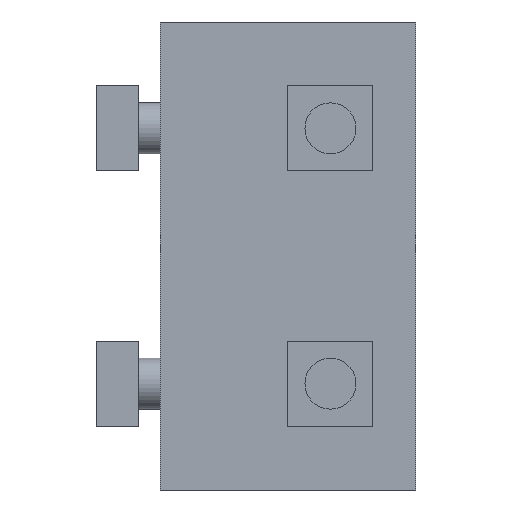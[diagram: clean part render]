
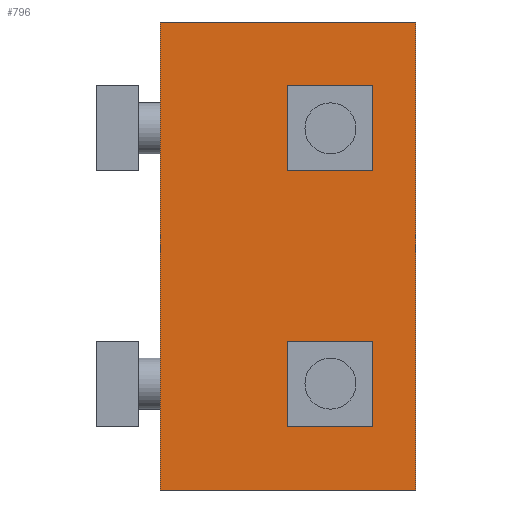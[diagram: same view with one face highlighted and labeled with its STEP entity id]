
A CAD part, front view. The second image highlights one B-rep face of the part: STEP entity #796.
In plain terms, the highlighted planar face has unit normal (0, -1, 0).
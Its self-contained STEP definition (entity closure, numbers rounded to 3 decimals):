
#272=CARTESIAN_POINT('',(23.5,0.0,-15.));
#273=VERTEX_POINT('',#272);
#274=CARTESIAN_POINT('',(20.,0.0,-15.));
#275=DIRECTION('',(0.0,1.0,0.0));
#276=DIRECTION('',(1.0,0.0,0.0));
#277=AXIS2_PLACEMENT_3D('',#274,#275,#276);
#278=CIRCLE('',#277,3.5);
#279=EDGE_CURVE('',#273,#273,#278,.T.);
#449=CARTESIAN_POINT('',(23.5,0.0,15.));
#450=VERTEX_POINT('',#449);
#451=CARTESIAN_POINT('',(20.,0.0,15.));
#452=DIRECTION('',(0.0,1.0,0.0));
#453=DIRECTION('',(1.0,0.0,0.0));
#454=AXIS2_PLACEMENT_3D('',#451,#452,#453);
#455=CIRCLE('',#454,3.5);
#456=EDGE_CURVE('',#450,#450,#455,.T.);
#466=CARTESIAN_POINT('',(30.,0.0,-27.5));
#467=VERTEX_POINT('',#466);
#476=CARTESIAN_POINT('',(0.0,0.0,-27.5));
#477=VERTEX_POINT('',#476);
#478=CARTESIAN_POINT('',(0.0,0.0,-27.5));
#479=DIRECTION('',(1.0,0.0,0.0));
#480=VECTOR('',#479,30.);
#481=LINE('',#478,#480);
#482=EDGE_CURVE('',#477,#467,#481,.T.);
#548=CARTESIAN_POINT('',(0.0,0.0,27.5));
#549=VERTEX_POINT('',#548);
#565=CARTESIAN_POINT('',(0.0,0.0,27.5));
#566=DIRECTION('',(0.0,0.0,-1.0));
#567=VECTOR('',#566,55.);
#568=LINE('',#565,#567);
#569=EDGE_CURVE('',#549,#477,#568,.T.);
#755=CARTESIAN_POINT('',(30.,0.0,27.5));
#756=VERTEX_POINT('',#755);
#763=CARTESIAN_POINT('',(30.,0.0,-27.5));
#764=DIRECTION('',(0.0,0.0,1.0));
#765=VECTOR('',#764,55.);
#766=LINE('',#763,#765);
#767=EDGE_CURVE('',#467,#756,#766,.T.);
#774=CARTESIAN_POINT('',(30.,0.0,0.0));
#775=DIRECTION('',(0.0,-1.0,0.0));
#776=DIRECTION('',(0.0,0.0,-1.0));
#777=AXIS2_PLACEMENT_3D('',#774,#775,#776);
#778=PLANE('',#777);
#779=CARTESIAN_POINT('',(30.,0.0,27.5));
#780=DIRECTION('',(-1.0,0.0,0.0));
#781=VECTOR('',#780,30.);
#782=LINE('',#779,#781);
#783=EDGE_CURVE('',#756,#549,#782,.T.);
#784=ORIENTED_EDGE('',*,*,#783,.T.);
#785=ORIENTED_EDGE('',*,*,#569,.T.);
#786=ORIENTED_EDGE('',*,*,#482,.T.);
#787=ORIENTED_EDGE('',*,*,#767,.T.);
#788=EDGE_LOOP('',(#784,#785,#786,#787));
#789=FACE_OUTER_BOUND('',#788,.T.);
#790=ORIENTED_EDGE('',*,*,#279,.T.);
#791=EDGE_LOOP('',(#790));
#792=FACE_BOUND('',#791,.T.);
#793=ORIENTED_EDGE('',*,*,#456,.T.);
#794=EDGE_LOOP('',(#793));
#795=FACE_BOUND('',#794,.T.);
#796=ADVANCED_FACE('',(#789,#792,#795),#778,.T.);
